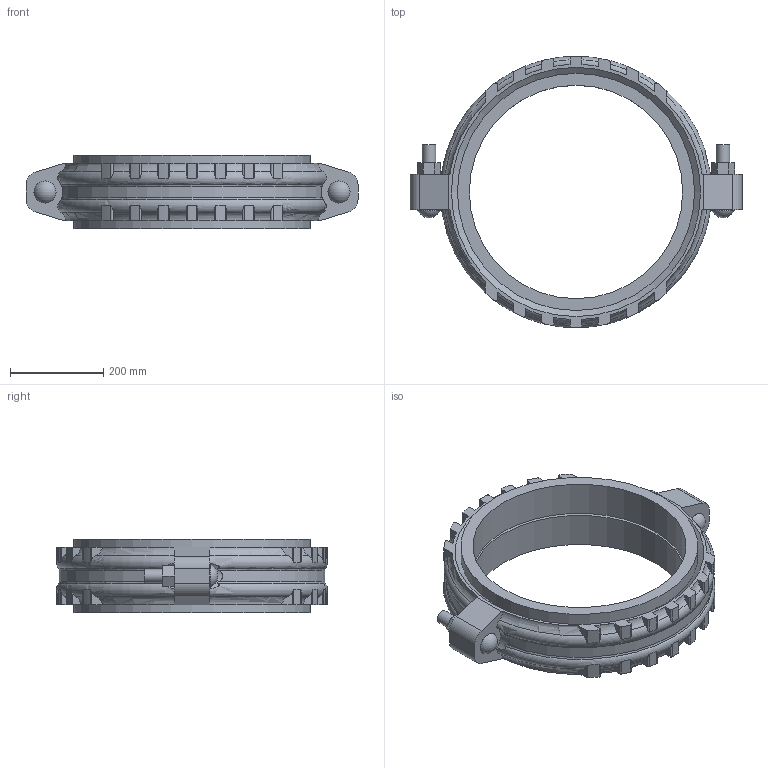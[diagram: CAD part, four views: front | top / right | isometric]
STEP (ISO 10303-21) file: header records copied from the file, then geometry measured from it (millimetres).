
FILE_DESCRIPTION(/* description */ ('VIC COUPLING FLEX STYLE W77 AGS VIC-RING ','CAx-IF Rec.Pracs.---Representation and Presentation of Product Manufacturing Information (PMI)---4.0---2014-10-13'),/* implementation_level */ '2;1');
FILE_NAME(/* name */ 'C:\Users\Vjadhav\AppData\Roaming\Autodesk\ApplicationPlugins\Victaulic.Temp\A52\Victaulic_Vic-Ring_Coupling Flexible_Style W77 (AGR)_20 (500).stp',/* time_stamp */ '2021-12-20T11:04:57+06:00',/* author */ ('Vjadhav'),/* organization */ ('Victaulic'),/* preprocessor_version */ 'ST-DEVELOPER v17.2',/* originating_system */ 'Autodesk Inventor 2019',/* authorisation */ '');
FILE_SCHEMA (('AP242_MANAGED_MODEL_BASED_3D_ENGINEERING_MIM_LF { 1 0 10303 442 1 1 4 }'));
Length unit declared in the file: inch
Products named in the file (3): W77 VR-20.0; W77 VR-20.0_1; W77 VR-20.0_2
Assembly tree (3 placements, depth 2):
  W77 VR-20.0
    W77 VR-20.0_1
    W77 VR-20.0_2  x2
Bounding box: 711.2 x 581.12 x 157.99 mm (x, y, z)
Volume: 13348179.2 mm3; surface area: 1249471.1 mm2
Topology: 3 solids, 5 shells, 285 faces, 825 edges, 558 vertices
Faces by surface type: cylinder 143, plane 98, torus 40, sphere 2, cone 2
Full cylindrical faces by diameter (mm): 28.575 x4, 47.625 x2, 457.2 x2, 488.95 x1, 508 x4
Entity records: 11521 total; most frequent: CARTESIAN_POINT 3784, ORIENTED_EDGE 1630, DIRECTION 1467, EDGE_CURVE 815, AXIS2_PLACEMENT_3D 569, VERTEX_POINT 550, LINE 329, VECTOR 329
